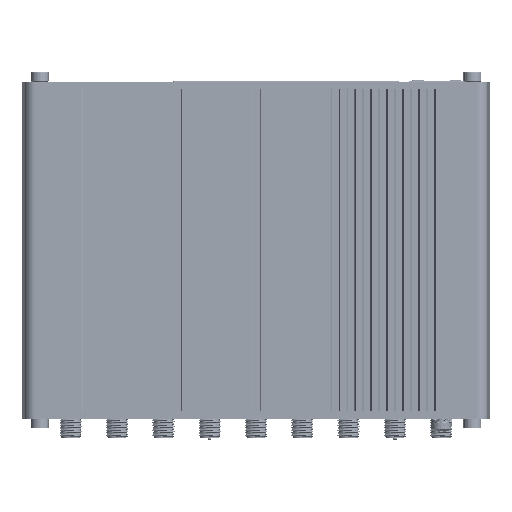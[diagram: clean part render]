
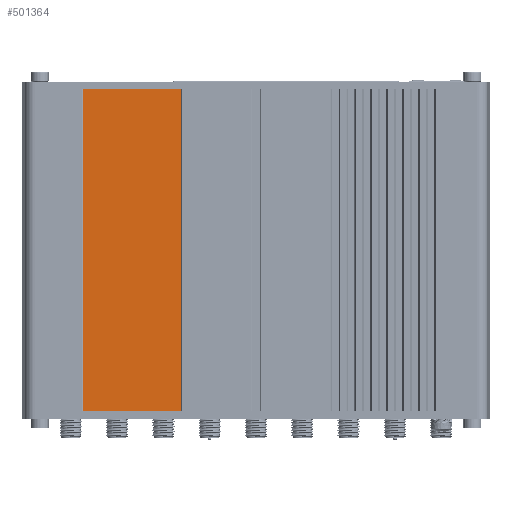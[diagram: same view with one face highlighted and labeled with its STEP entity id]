
A CAD part, front view. The second image highlights one B-rep face of the part: STEP entity #501364.
In plain terms, the highlighted planar face has unit normal (0, -1, 0).
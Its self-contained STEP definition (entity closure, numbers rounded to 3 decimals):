
#1898 = CARTESIAN_POINT ( 'NONE',  ( -49., 5.024, 91. ) ) ;
#25326 = AXIS2_PLACEMENT_3D ( 'NONE', #92868, #334466, #405551 ) ;
#33030 = EDGE_CURVE ( 'NONE', #279493, #372961, #281966, .T. ) ;
#81104 = CARTESIAN_POINT ( 'NONE',  ( -48.9, 5.024, 0. ) ) ;
#92868 = CARTESIAN_POINT ( 'NONE',  ( -49., 5.024, 0. ) ) ;
#107628 = CARTESIAN_POINT ( 'NONE',  ( -49., 5.024, 0. ) ) ;
#115210 = EDGE_CURVE ( 'NONE', #192455, #372961, #140704, .T. ) ;
#118806 = EDGE_CURVE ( 'NONE', #279493, #440666, #508361, .T. ) ;
#128080 = ORIENTED_EDGE ( 'NONE', *, *, #33030, .F. ) ;
#128682 = DIRECTION ( 'NONE',  ( -1., 0., 0. ) ) ;
#131463 = VECTOR ( 'NONE', #768446, 1000. ) ;
#140704 = LINE ( 'NONE', #81104, #156627 ) ;
#156627 = VECTOR ( 'NONE', #167037, 1000. ) ;
#167037 = DIRECTION ( 'NONE',  ( 0., 0., -1. ) ) ;
#192455 = VERTEX_POINT ( 'NONE', #493048 ) ;
#207769 = CARTESIAN_POINT ( 'NONE',  ( -21.1, 5.024, 91. ) ) ;
#245031 = CARTESIAN_POINT ( 'NONE',  ( -21.1, 5.024, 91. ) ) ;
#279493 = VERTEX_POINT ( 'NONE', #342129 ) ;
#281966 = LINE ( 'NONE', #107628, #131463 ) ;
#299204 = ORIENTED_EDGE ( 'NONE', *, *, #118806, .T. ) ;
#334466 = DIRECTION ( 'NONE',  ( 0., 1., 0. ) ) ;
#342129 = CARTESIAN_POINT ( 'NONE',  ( -21.1, 5.024, 0. ) ) ;
#363881 = EDGE_LOOP ( 'NONE', ( #128080, #299204, #743461, #774465 ) ) ;
#372961 = VERTEX_POINT ( 'NONE', #424630 ) ;
#379812 = EDGE_CURVE ( 'NONE', #440666, #192455, #544028, .T. ) ;
#405551 = DIRECTION ( 'NONE',  ( 0., 0., 1. ) ) ;
#424630 = CARTESIAN_POINT ( 'NONE',  ( -48.9, 5.024, 0. ) ) ;
#438885 = VECTOR ( 'NONE', #504495, 1000. ) ;
#440666 = VERTEX_POINT ( 'NONE', #245031 ) ;
#493048 = CARTESIAN_POINT ( 'NONE',  ( -48.9, 5.024, 91. ) ) ;
#501364 = ADVANCED_FACE ( 'NONE', ( #757613 ), #634728, .F. ) ;
#504495 = DIRECTION ( 'NONE',  ( 0., 0., 1. ) ) ;
#508361 = LINE ( 'NONE', #207769, #438885 ) ;
#544028 = LINE ( 'NONE', #1898, #544132 ) ;
#544132 = VECTOR ( 'NONE', #128682, 1000. ) ;
#634728 = PLANE ( 'NONE',  #25326 ) ;
#743461 = ORIENTED_EDGE ( 'NONE', *, *, #379812, .T. ) ;
#757613 = FACE_OUTER_BOUND ( 'NONE', #363881, .T. ) ;
#768446 = DIRECTION ( 'NONE',  ( -1., 0., 0. ) ) ;
#774465 = ORIENTED_EDGE ( 'NONE', *, *, #115210, .T. ) ;
